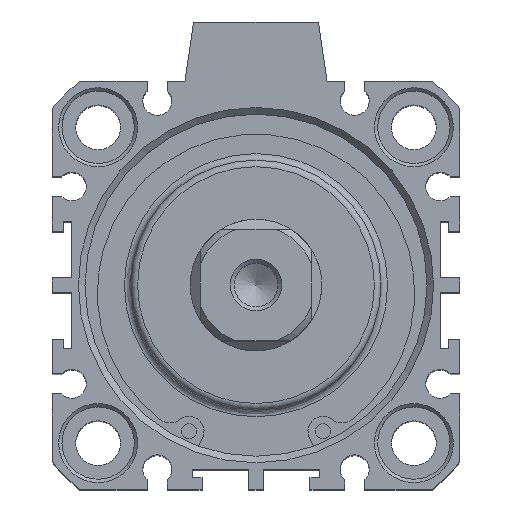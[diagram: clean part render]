
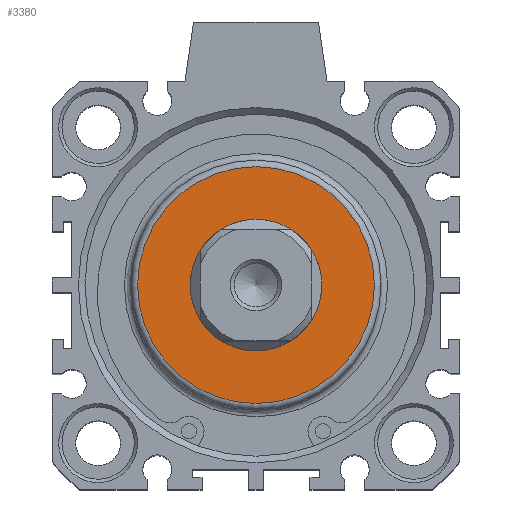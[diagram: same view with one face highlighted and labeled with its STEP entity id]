
A CAD part, top view. The second image highlights one B-rep face of the part: STEP entity #3380.
In plain terms, the highlighted planar face has unit normal (0, 0, 1).
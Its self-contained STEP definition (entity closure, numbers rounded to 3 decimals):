
#2900=CARTESIAN_POINT('',(-7.057,11.794,82.5));
#2901=VERTEX_POINT('',#2900);
#2902=CARTESIAN_POINT('',(-7.057,1.794,82.5));
#2903=DIRECTION('',(0.0,0.0,-1.0));
#2904=DIRECTION('',(0.0,1.0,0.0));
#2905=AXIS2_PLACEMENT_3D('',#2902,#2903,#2904);
#2906=CIRCLE('',#2905,10.);
#2907=EDGE_CURVE('',#2901,#2901,#2906,.T.);
#3354=CARTESIAN_POINT('',(-7.057,19.794,82.5));
#3355=VERTEX_POINT('',#3354);
#3356=CARTESIAN_POINT('',(-7.057,1.794,82.5));
#3357=DIRECTION('',(0.0,0.0,-1.0));
#3358=DIRECTION('',(0.0,-1.0,0.0));
#3359=AXIS2_PLACEMENT_3D('',#3356,#3357,#3358);
#3360=CIRCLE('',#3359,18.0);
#3361=EDGE_CURVE('',#3355,#3355,#3360,.T.);
#3369=CARTESIAN_POINT('',(-7.057,11.294,82.5));
#3370=DIRECTION('',(0.0,0.0,1.0));
#3371=DIRECTION('',(1.0,0.0,0.0));
#3372=AXIS2_PLACEMENT_3D('',#3369,#3370,#3371);
#3373=PLANE('',#3372);
#3374=ORIENTED_EDGE('',*,*,#3361,.F.);
#3375=EDGE_LOOP('',(#3374));
#3376=FACE_OUTER_BOUND('',#3375,.T.);
#3377=ORIENTED_EDGE('',*,*,#2907,.T.);
#3378=EDGE_LOOP('',(#3377));
#3379=FACE_BOUND('',#3378,.T.);
#3380=ADVANCED_FACE('',(#3376,#3379),#3373,.T.);
